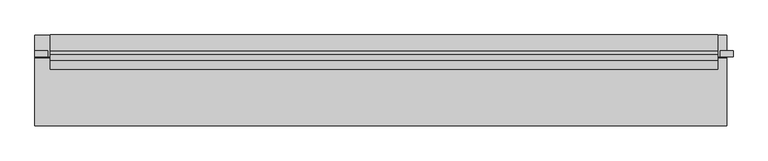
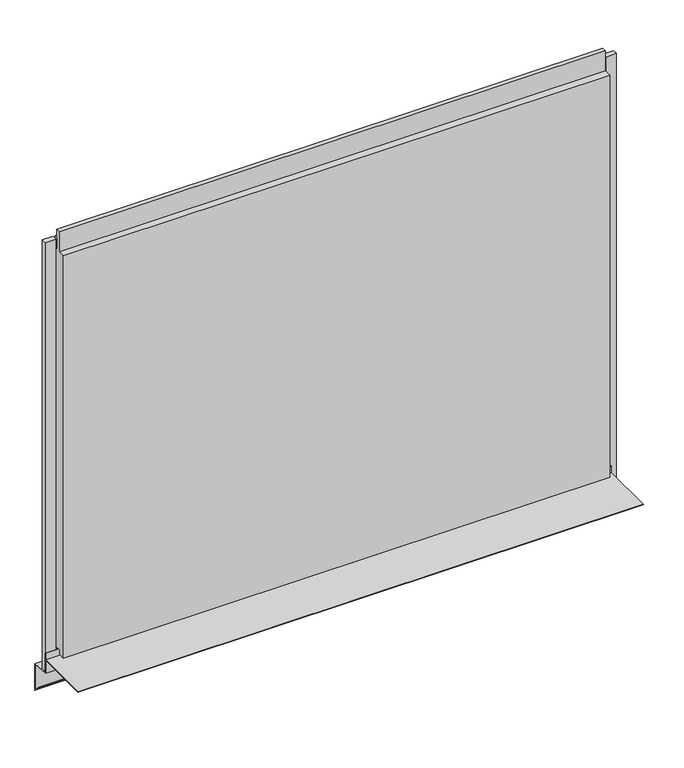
"""IFC4 building model written with IfcOpenShell, lengths in millimetres: plate geometry, Trimo_Qbiss Screen_Normal Panel-HORIZONTAL : HR - B."""

from ifc_helpers import new_model, si_unit, frame, origin, place, context, project, spatial, polyline, outline, extrude, source, transform, mapped, element, save


def plate_21cbcbb2(model_context):
    return source(origin(), model_context, "Body", "SweptSolid", [
        extrude(outline(polyline([(111.7, 14.0835797), (112.5, 14.0835797), (112.5, -23.0), (145.0, -25.8433816), (145.0, -76.0), (132.1509533, -63.1509533), (132.7166388, -62.5852679), (144.2, -74.0686292), (144.2, -26.5764465), (111.7, -23.7330649), (111.7, 1.0), (12.5, 1.0), (12.5, 1.8), (111.7, 1.8), (111.7, 14.0835797)])), frame((-528.75, 0.0, 0.0), z_axis=(1.0, 0.0, 0.0), x_axis=(0.0, 1.0, 0.0)), (0.0, 0.0, 1.0), 1007.5),
        extrude(outline(polyline([(-509.75, 121.5978162), (-509.75, 112.8978162), (-528.75, 112.8978162), (-528.75, 121.5978162), (-509.75, 121.5978162)])), frame((0.0, 0.0, -20.0), z_axis=(0.0, 0.0, 1.0), x_axis=(1.0, 0.0, 0.0)), (0.0, 0.0, 1.0), 806.95),
        extrude(outline(polyline([(469.25, 112.8978162), (469.25, 121.5978162), (488.25, 121.5978162), (488.25, 112.8978162), (469.25, 112.8978162)])), frame((0.0, 0.0, -20.0), z_axis=(0.0, 0.0, 1.0), x_axis=(1.0, 0.0, 0.0)), (0.0, 0.0, 1.0), 806.95),
        extrude(outline(polyline([(466.25, 121.0), (466.25, 116.0), (-506.75, 116.0), (-506.75, 121.0), (466.25, 121.0)])), frame((0.0, 0.0, 765.95), z_axis=(0.0, 0.0, 1.0), x_axis=(1.0, 0.0, 0.0)), (0.0, 0.0, 1.0), 21.0),
        extrude(outline(polyline([(116.0, 764.95), (145.0, 764.95), (145.0, 0.0), (117.0, 0.0), (117.0, 15.5), (107.0, 15.5), (107.0, 7.0), (95.0, 7.0), (95.0, 764.95), (108.0, 764.95), (108.0, 802.45), (116.0, 802.45), (116.0, 764.95)])), frame((-506.75, 0.0, 0.0), z_axis=(1.0, 0.0, 0.0), x_axis=(0.0, 1.0, 0.0)), (0.0, 0.0, 1.0), 973.0),
    ])


if __name__ == "__main__":
    model = new_model("IFC4")
    model_context = context("Model", 3, world=origin())
    ifc_project = project(units=[si_unit("LENGTHUNIT", "METRE", prefix="MILLI")], contexts=[model_context])
    site = spatial("IfcSite", under=ifc_project)
    building = spatial("IfcBuilding", under=site)
    placement = place(None, origin())
    plate_shape = plate_21cbcbb2(model_context)
    element("IfcPlate", 1, ObjectType="Trimo_Qbiss Screen_Normal Panel-HORIZONTAL : HR - B", at=placement, inside=building, context=model_context, shape_type="MappedRepresentation", body=[
        mapped(plate_shape, transform((0.0, 0.0, 0.0), x_axis=(1.0, 0.0, 0.0), y_axis=(0.0, 1.0, 0.0), z_axis=(0.0, 0.0, 1.0))),
    ])
    save(model, "model.ifc")
